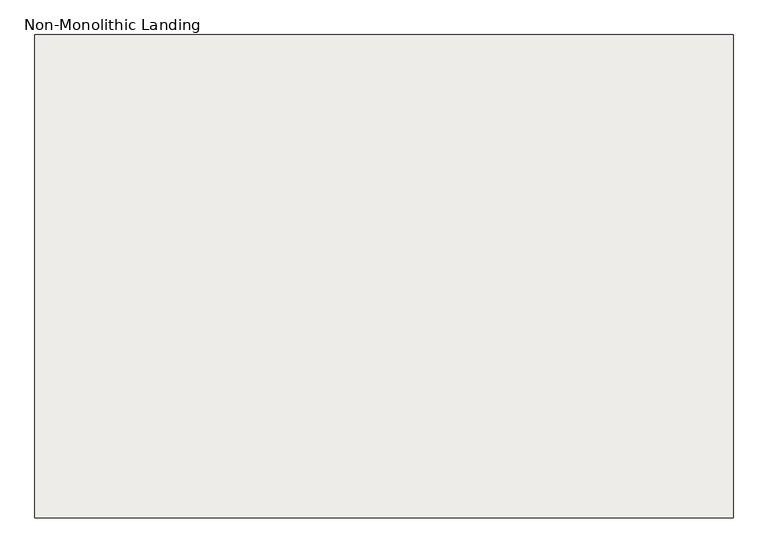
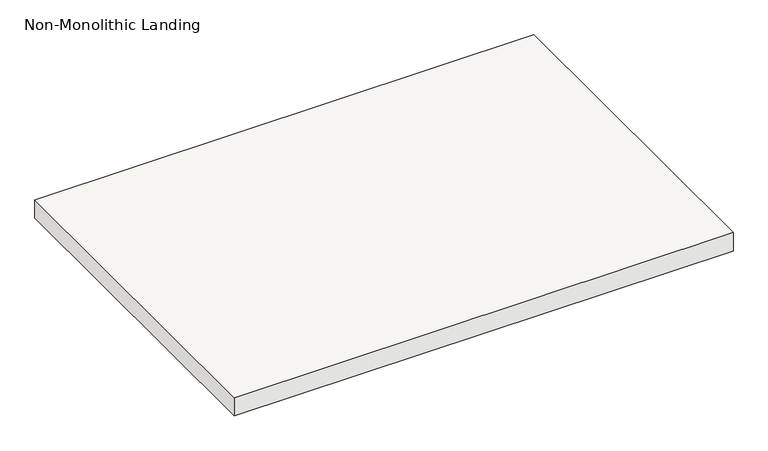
"""IFC4 building model written with IfcOpenShell, lengths in millimetres: slab geometry, Non-Monolithic Landing."""

from ifc_helpers import new_model, si_unit, frame, origin, place, context, project, spatial, polyline, outline, extrude, source, transform, mapped, element, save


def non_monolithic_landing_3095d626(model_context):
    return source(origin(), model_context, "Body", "SweptSolid", [
        extrude(outline(polyline([(161506.2211992, 16769.2539886), (162827.0211992, 16769.2539886), (162827.0211992, 15854.8539886), (161506.2211992, 15854.8539886), (161506.2211992, 16769.2539886)])), frame((0.0, 0.0, 2126.3428571), z_axis=(0.0, 0.0, 1.0), x_axis=(1.0, 0.0, 0.0)), (0.0, 0.0, 1.0), 50.8),
    ])


if __name__ == "__main__":
    model = new_model("IFC4")
    model_context = context("Model", 3, world=origin())
    ifc_project = project(units=[si_unit("LENGTHUNIT", "METRE", prefix="MILLI")], contexts=[model_context])
    site = spatial("IfcSite", under=ifc_project)
    building = spatial("IfcBuilding", under=site)
    placement = place(None, origin())
    non_monolithic_landing_shape = non_monolithic_landing_3095d626(model_context)
    element("IfcSlab", 1, ObjectType="Non-Monolithic Landing", at=placement, inside=building, context=model_context, shape_type="MappedRepresentation", body=[
        mapped(non_monolithic_landing_shape, transform((0.0, 0.0, 0.0), x_axis=(1.0, 0.0, 0.0), y_axis=(0.0, 1.0, 0.0), z_axis=(0.0, 0.0, 1.0))),
    ])
    save(model, "model.ifc")
